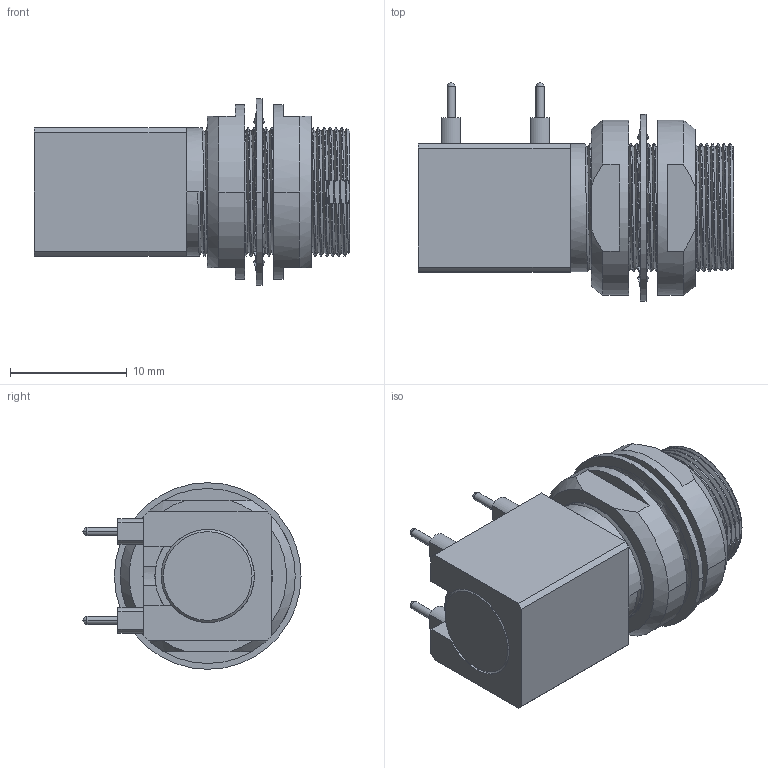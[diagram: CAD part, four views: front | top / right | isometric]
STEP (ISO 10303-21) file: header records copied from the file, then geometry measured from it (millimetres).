
FILE_DESCRIPTION (( 'STEP AP203' ), '1' );
FILE_NAME ('821BRYY-213R0M1.STEP', '2026-01-30T17:46:10', ( '' ), ( '' ), 'SwSTEP 2.0', 'SolidWorks 2020', '' );
FILE_SCHEMA (( 'CONFIG_CONTROL_DESIGN' ));
Length unit declared in the file: millimetre
Products named in the file (1): 821BRYY-213R0M1
Bounding box: 27 x 18.7 x 16 mm (x, y, z)
Volume: 3374.1 mm3; surface area: 3789.4 mm2
Topology: 21 solids, 21 shells, 764 faces, 1973 edges, 1202 vertices
Faces by surface type: plane 304, cylinder 291, bspline 110, cone 59
Entity records: 32752 total; most frequent: CARTESIAN_POINT 15566, ORIENTED_EDGE 3802, DIRECTION 3256, EDGE_CURVE 1901, AXIS2_PLACEMENT_3D 1255, VERTEX_POINT 1202, EDGE_LOOP 825, ADVANCED_FACE 764
